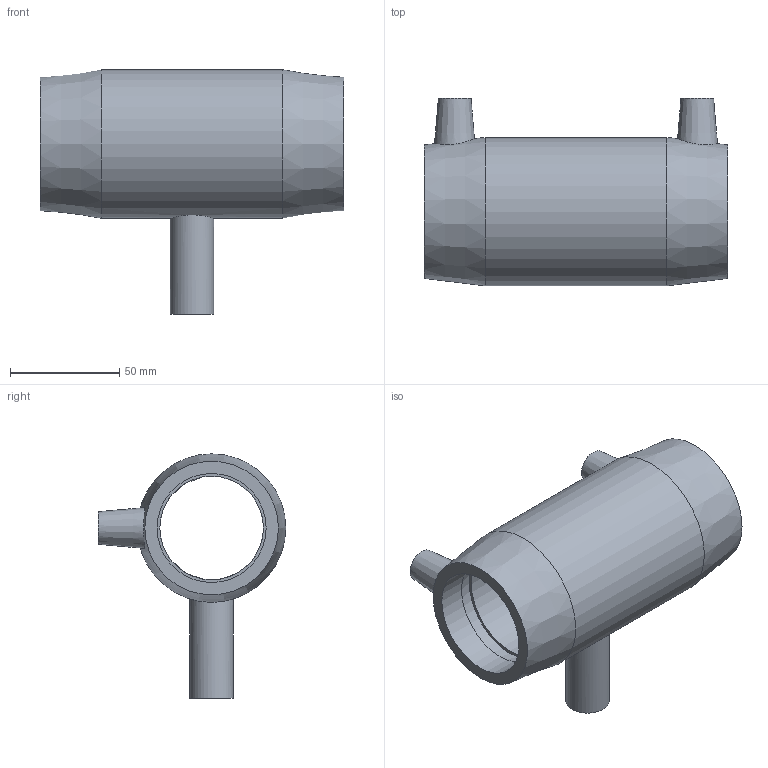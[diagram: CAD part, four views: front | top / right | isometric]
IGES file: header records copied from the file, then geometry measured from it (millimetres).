
Global section: file name: 491404050020.ipt; native system: Autodesk Inventor 2015; preprocessor: unknown; author: KIM; date: 20171106.093840; units: millimetre
Bounding box: 139 x 86 x 112 mm (x, y, z)
Volume: 229111.6 mm3; surface area: 61841.6 mm2
Topology: 1 solids, 1 shells, 31 faces, 72 edges, 52 vertices
Faces by surface type: plane 13, revolution 10, cylinder 4, cone 4
Full cylindrical faces by diameter (mm): 4 x2, 20 x1, 68 x1
